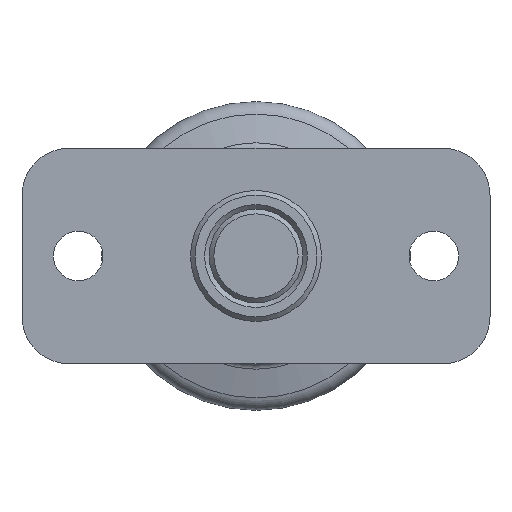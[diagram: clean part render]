
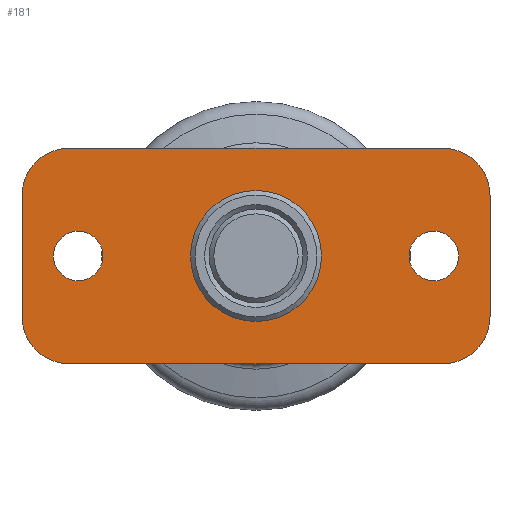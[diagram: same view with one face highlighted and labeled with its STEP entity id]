
A CAD part, front view. The second image highlights one B-rep face of the part: STEP entity #181.
In plain terms, the highlighted planar face has unit normal (0, -1, 0).
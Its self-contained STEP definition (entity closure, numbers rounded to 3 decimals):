
#181 = ADVANCED_FACE( '', ( #279, #280, #281, #282 ), #283, .F. );
#279 = FACE_BOUND( '', #473, .T. );
#280 = FACE_BOUND( '', #474, .T. );
#281 = FACE_BOUND( '', #475, .T. );
#282 = FACE_OUTER_BOUND( '', #476, .T. );
#283 = PLANE( '', #477 );
#473 = EDGE_LOOP( '', ( #723 ) );
#474 = EDGE_LOOP( '', ( #724 ) );
#475 = EDGE_LOOP( '', ( #725 ) );
#476 = EDGE_LOOP( '', ( #726, #727, #728, #729, #730, #731, #732, #733 ) );
#477 = AXIS2_PLACEMENT_3D( '', #734, #735, #736 );
#723 = ORIENTED_EDGE( '', *, *, #1228, .F. );
#724 = ORIENTED_EDGE( '', *, *, #1229, .F. );
#725 = ORIENTED_EDGE( '', *, *, #1230, .F. );
#726 = ORIENTED_EDGE( '', *, *, #1231, .F. );
#727 = ORIENTED_EDGE( '', *, *, #1232, .F. );
#728 = ORIENTED_EDGE( '', *, *, #1233, .F. );
#729 = ORIENTED_EDGE( '', *, *, #1234, .F. );
#730 = ORIENTED_EDGE( '', *, *, #1235, .F. );
#731 = ORIENTED_EDGE( '', *, *, #1236, .F. );
#732 = ORIENTED_EDGE( '', *, *, #1237, .F. );
#733 = ORIENTED_EDGE( '', *, *, #1238, .F. );
#734 = CARTESIAN_POINT( '', ( -20., 0., 6.5 ) );
#735 = DIRECTION( '', ( 0., 1., 0. ) );
#736 = DIRECTION( '', ( 0., 0., 1. ) );
#1228 = EDGE_CURVE( '', #1412, #1412, #1413, .T. );
#1229 = EDGE_CURVE( '', #1414, #1414, #1415, .T. );
#1230 = EDGE_CURVE( '', #1416, #1416, #1417, .T. );
#1231 = EDGE_CURVE( '', #1418, #1419, #1420, .T. );
#1232 = EDGE_CURVE( '', #1421, #1418, #1422, .T. );
#1233 = EDGE_CURVE( '', #1423, #1421, #1424, .T. );
#1234 = EDGE_CURVE( '', #1425, #1423, #1426, .T. );
#1235 = EDGE_CURVE( '', #1427, #1425, #1428, .T. );
#1236 = EDGE_CURVE( '', #1429, #1427, #1430, .T. );
#1237 = EDGE_CURVE( '', #1431, #1429, #1432, .T. );
#1238 = EDGE_CURVE( '', #1419, #1431, #1433, .T. );
#1412 = VERTEX_POINT( '', #1744 );
#1413 = CIRCLE( '', #1745, 2.65 );
#1414 = VERTEX_POINT( '', #1746 );
#1415 = CIRCLE( '', #1747, 2.65 );
#1416 = VERTEX_POINT( '', #1748 );
#1417 = CIRCLE( '', #1749, 7. );
#1418 = VERTEX_POINT( '', #1750 );
#1419 = VERTEX_POINT( '', #1751 );
#1420 = LINE( '', #1752, #1753 );
#1421 = VERTEX_POINT( '', #1754 );
#1422 = CIRCLE( '', #1755, 5. );
#1423 = VERTEX_POINT( '', #1756 );
#1424 = LINE( '', #1757, #1758 );
#1425 = VERTEX_POINT( '', #1759 );
#1426 = CIRCLE( '', #1760, 5. );
#1427 = VERTEX_POINT( '', #1761 );
#1428 = LINE( '', #1762, #1763 );
#1429 = VERTEX_POINT( '', #1764 );
#1430 = CIRCLE( '', #1765, 5. );
#1431 = VERTEX_POINT( '', #1766 );
#1432 = LINE( '', #1767, #1768 );
#1433 = CIRCLE( '', #1769, 5. );
#1744 = CARTESIAN_POINT( '', ( 19., 0., -2.65 ) );
#1745 = AXIS2_PLACEMENT_3D( '', #2190, #2191, #2192 );
#1746 = CARTESIAN_POINT( '', ( -19., 0., -2.65 ) );
#1747 = AXIS2_PLACEMENT_3D( '', #2193, #2194, #2195 );
#1748 = CARTESIAN_POINT( '', ( 0., 0., -7. ) );
#1749 = AXIS2_PLACEMENT_3D( '', #2196, #2197, #2198 );
#1750 = CARTESIAN_POINT( '', ( -25., 0., -6.5 ) );
#1751 = CARTESIAN_POINT( '', ( -25., 0., 6.5 ) );
#1752 = CARTESIAN_POINT( '', ( -25., 0., -6.5 ) );
#1753 = VECTOR( '', #2199, 1000. );
#1754 = CARTESIAN_POINT( '', ( -20., 0., -11.5 ) );
#1755 = AXIS2_PLACEMENT_3D( '', #2200, #2201, #2202 );
#1756 = CARTESIAN_POINT( '', ( 20., 0., -11.5 ) );
#1757 = CARTESIAN_POINT( '', ( 20., 0., -11.5 ) );
#1758 = VECTOR( '', #2203, 1000. );
#1759 = CARTESIAN_POINT( '', ( 25., 0., -6.5 ) );
#1760 = AXIS2_PLACEMENT_3D( '', #2204, #2205, #2206 );
#1761 = CARTESIAN_POINT( '', ( 25., 0., 6.5 ) );
#1762 = CARTESIAN_POINT( '', ( 25., 0., 6.5 ) );
#1763 = VECTOR( '', #2207, 1000. );
#1764 = CARTESIAN_POINT( '', ( 20., 0., 11.5 ) );
#1765 = AXIS2_PLACEMENT_3D( '', #2208, #2209, #2210 );
#1766 = CARTESIAN_POINT( '', ( -20., 0., 11.5 ) );
#1767 = CARTESIAN_POINT( '', ( -20., 0., 11.5 ) );
#1768 = VECTOR( '', #2211, 1000. );
#1769 = AXIS2_PLACEMENT_3D( '', #2212, #2213, #2214 );
#2190 = CARTESIAN_POINT( '', ( 19., 0., 0. ) );
#2191 = DIRECTION( '', ( 0., -1., 0. ) );
#2192 = DIRECTION( '', ( 0., 0., -1. ) );
#2193 = CARTESIAN_POINT( '', ( -19., 0., 0. ) );
#2194 = DIRECTION( '', ( 0., -1., 0. ) );
#2195 = DIRECTION( '', ( 0., 0., -1. ) );
#2196 = CARTESIAN_POINT( '', ( 0., 0., 0. ) );
#2197 = DIRECTION( '', ( 0., -1., 0. ) );
#2198 = DIRECTION( '', ( 0., 0., -1. ) );
#2199 = DIRECTION( '', ( 0., 0., 1. ) );
#2200 = CARTESIAN_POINT( '', ( -20., 0., -6.5 ) );
#2201 = DIRECTION( '', ( 0., 1., 0. ) );
#2202 = DIRECTION( '', ( 1., 0., 0. ) );
#2203 = DIRECTION( '', ( -1., 0., 0. ) );
#2204 = CARTESIAN_POINT( '', ( 20., 0., -6.5 ) );
#2205 = DIRECTION( '', ( 0., 1., 0. ) );
#2206 = DIRECTION( '', ( 1., 0., 0. ) );
#2207 = DIRECTION( '', ( 0., 0., -1. ) );
#2208 = CARTESIAN_POINT( '', ( 20., 0., 6.5 ) );
#2209 = DIRECTION( '', ( 0., 1., 0. ) );
#2210 = DIRECTION( '', ( 1., 0., 0. ) );
#2211 = DIRECTION( '', ( 1., 0., 0. ) );
#2212 = CARTESIAN_POINT( '', ( -20., 0., 6.5 ) );
#2213 = DIRECTION( '', ( 0., 1., 0. ) );
#2214 = DIRECTION( '', ( 1., 0., 0. ) );
